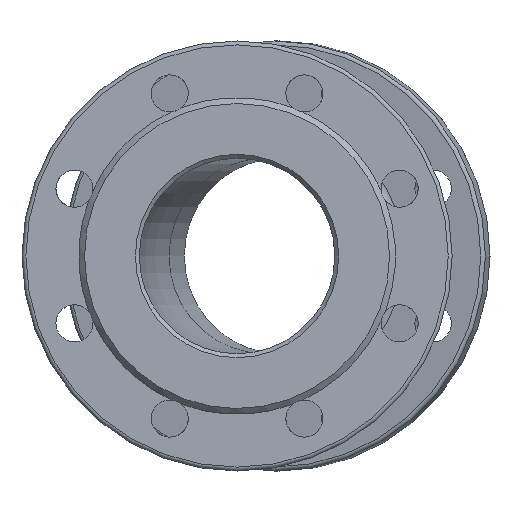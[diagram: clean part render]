
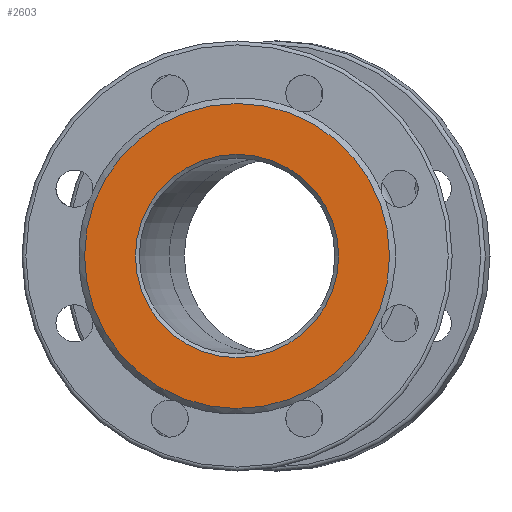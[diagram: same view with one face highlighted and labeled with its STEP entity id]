
A CAD part, left-side view. The second image highlights one B-rep face of the part: STEP entity #2603.
In plain terms, the highlighted planar face has unit normal (-1, 0, 0).
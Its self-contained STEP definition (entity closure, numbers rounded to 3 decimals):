
#4 = CIRCLE ( 'NONE', #1550, 78. ) ;
#80 = EDGE_CURVE ( 'NONE', #665, #665, #4, .T. ) ;
#104 = DIRECTION ( 'NONE',  ( 0., 0., 1. ) ) ;
#211 = ORIENTED_EDGE ( 'NONE', *, *, #80, .T. ) ;
#483 = EDGE_LOOP ( 'NONE', ( #838 ) ) ;
#646 = EDGE_CURVE ( 'NONE', #1383, #1383, #2465, .T. ) ;
#649 = FACE_BOUND ( 'NONE', #483, .T. ) ;
#665 = VERTEX_POINT ( 'NONE', #1571 ) ;
#838 = ORIENTED_EDGE ( 'NONE', *, *, #646, .T. ) ;
#879 = CARTESIAN_POINT ( 'NONE',  ( 0., 0., 0. ) ) ;
#1086 = CARTESIAN_POINT ( 'NONE',  ( 0., 50., 0. ) ) ;
#1122 = CARTESIAN_POINT ( 'NONE',  ( 0., 0., -52. ) ) ;
#1383 = VERTEX_POINT ( 'NONE', #1122 ) ;
#1505 = AXIS2_PLACEMENT_3D ( 'NONE', #879, #2259, #1813 ) ;
#1550 = AXIS2_PLACEMENT_3D ( 'NONE', #2131, #1702, #104 ) ;
#1571 = CARTESIAN_POINT ( 'NONE',  ( 0., 0., 78. ) ) ;
#1702 = DIRECTION ( 'NONE',  ( -1., 0., 0. ) ) ;
#1783 = DIRECTION ( 'NONE',  ( 0., 0., -1. ) ) ;
#1813 = DIRECTION ( 'NONE',  ( 0., 0., -1. ) ) ;
#2042 = AXIS2_PLACEMENT_3D ( 'NONE', #1086, #2916, #1783 ) ;
#2131 = CARTESIAN_POINT ( 'NONE',  ( 0., 0., 0. ) ) ;
#2192 = EDGE_LOOP ( 'NONE', ( #211 ) ) ;
#2230 = PLANE ( 'NONE',  #2042 ) ;
#2259 = DIRECTION ( 'NONE',  ( 1., 0., 0. ) ) ;
#2465 = CIRCLE ( 'NONE', #1505, 52. ) ;
#2479 = FACE_OUTER_BOUND ( 'NONE', #2192, .T. ) ;
#2603 = ADVANCED_FACE ( 'NONE', ( #649, #2479 ), #2230, .F. ) ;
#2916 = DIRECTION ( 'NONE',  ( 1., 0., 0. ) ) ;
